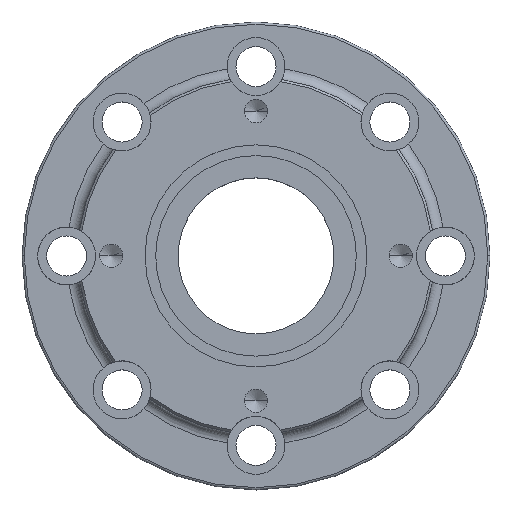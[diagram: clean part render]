
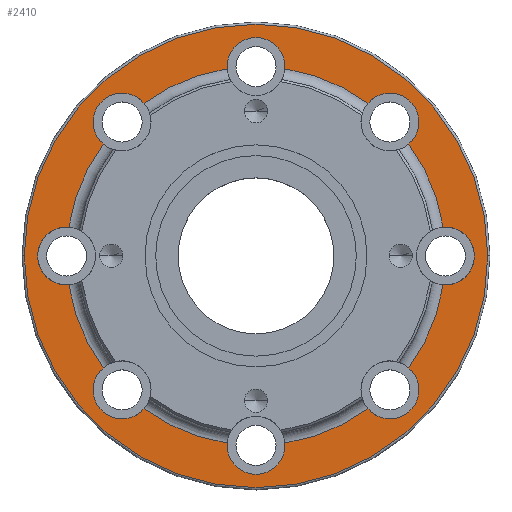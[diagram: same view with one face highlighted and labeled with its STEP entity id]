
A CAD part, top view. The second image highlights one B-rep face of the part: STEP entity #2410.
In plain terms, the highlighted planar face has unit normal (0, 0, 1).
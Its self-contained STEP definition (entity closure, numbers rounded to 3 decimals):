
#52=CARTESIAN_POINT('',(84.006,-12.962,20.));
#357=CARTESIAN_POINT('',(0.,0.,20.));
#358=DIRECTION('',(0.,0.,1.));
#359=DIRECTION('',(-1.,0.,0.));
#360=AXIS2_PLACEMENT_3D('',#357,#358,#359);
#362=CARTESIAN_POINT('',(0.,0.,20.));
#363=DIRECTION('',(0.,0.,1.));
#364=DIRECTION('',(1.,0.,0.));
#365=AXIS2_PLACEMENT_3D('',#362,#363,#364);
#367=CARTESIAN_POINT('',(60.104,60.104,20.));
#368=DIRECTION('',(0.,0.,-1.));
#369=DIRECTION('',(-0.759,0.651,0.));
#370=AXIS2_PLACEMENT_3D('',#367,#368,#369);
#372=CARTESIAN_POINT('',(0.,0.,20.));
#373=DIRECTION('',(0.,0.,-1.));
#374=DIRECTION('',(0.152,0.988,0.));
#375=AXIS2_PLACEMENT_3D('',#372,#373,#374);
#377=CARTESIAN_POINT('',(0.,85.,20.));
#378=DIRECTION('',(0.,0.,-1.));
#379=DIRECTION('',(1.,0.,0.));
#380=AXIS2_PLACEMENT_3D('',#377,#378,#379);
#382=CARTESIAN_POINT('',(0.,85.,20.));
#383=DIRECTION('',(0.,0.,-1.));
#384=DIRECTION('',(-1.,0.,0.));
#385=AXIS2_PLACEMENT_3D('',#382,#383,#384);
#387=CARTESIAN_POINT('',(0.,85.,20.));
#388=DIRECTION('',(0.,0.,-1.));
#389=DIRECTION('',(-0.997,-0.076,0.));
#390=AXIS2_PLACEMENT_3D('',#387,#388,#389);
#392=CARTESIAN_POINT('',(0.,0.,20.));
#393=DIRECTION('',(0.,0.,-1.));
#394=DIRECTION('',(-0.591,0.807,0.));
#395=AXIS2_PLACEMENT_3D('',#392,#393,#394);
#397=CARTESIAN_POINT('',(-60.104,60.104,20.));
#398=DIRECTION('',(0.,0.,-1.));
#399=DIRECTION('',(-1.,0.,0.));
#400=AXIS2_PLACEMENT_3D('',#397,#398,#399);
#402=CARTESIAN_POINT('',(-60.104,60.104,20.));
#403=DIRECTION('',(0.,0.,-1.));
#404=DIRECTION('',(-0.651,-0.759,0.));
#405=AXIS2_PLACEMENT_3D('',#402,#403,#404);
#407=CARTESIAN_POINT('',(0.,0.,20.));
#408=DIRECTION('',(0.,0.,-1.));
#409=DIRECTION('',(-0.988,0.152,0.));
#410=AXIS2_PLACEMENT_3D('',#407,#408,#409);
#412=CARTESIAN_POINT('',(-85.,0.,20.));
#413=DIRECTION('',(0.,0.,-1.));
#414=DIRECTION('',(-1.,0.,0.));
#415=AXIS2_PLACEMENT_3D('',#412,#413,#414);
#417=CARTESIAN_POINT('',(-85.,0.,20.));
#418=DIRECTION('',(0.,0.,-1.));
#419=DIRECTION('',(0.076,-0.997,0.));
#420=AXIS2_PLACEMENT_3D('',#417,#418,#419);
#422=CARTESIAN_POINT('',(0.,0.,20.));
#423=DIRECTION('',(0.,0.,-1.));
#424=DIRECTION('',(-0.807,-0.591,0.));
#425=AXIS2_PLACEMENT_3D('',#422,#423,#424);
#427=CARTESIAN_POINT('',(-60.104,-60.104,20.));
#428=DIRECTION('',(0.,0.,-1.));
#429=DIRECTION('',(-1.,0.,0.));
#430=AXIS2_PLACEMENT_3D('',#427,#428,#429);
#432=CARTESIAN_POINT('',(-60.104,-60.104,20.));
#433=DIRECTION('',(0.,0.,-1.));
#434=DIRECTION('',(0.759,-0.651,0.));
#435=AXIS2_PLACEMENT_3D('',#432,#433,#434);
#437=CARTESIAN_POINT('',(0.,0.,20.));
#438=DIRECTION('',(0.,0.,-1.));
#439=DIRECTION('',(-0.152,-0.988,0.));
#440=AXIS2_PLACEMENT_3D('',#437,#438,#439);
#442=CARTESIAN_POINT('',(0.,-85.,20.));
#443=DIRECTION('',(0.,0.,-1.));
#444=DIRECTION('',(-1.,0.,0.));
#445=AXIS2_PLACEMENT_3D('',#442,#443,#444);
#447=CARTESIAN_POINT('',(0.,-85.,20.));
#448=DIRECTION('',(0.,0.,-1.));
#449=DIRECTION('',(1.,0.,0.));
#450=AXIS2_PLACEMENT_3D('',#447,#448,#449);
#452=CARTESIAN_POINT('',(0.,-85.,20.));
#453=DIRECTION('',(0.,0.,-1.));
#454=DIRECTION('',(0.997,0.076,0.));
#455=AXIS2_PLACEMENT_3D('',#452,#453,#454);
#457=CARTESIAN_POINT('',(0.,0.,20.));
#458=DIRECTION('',(0.,0.,-1.));
#459=DIRECTION('',(0.591,-0.807,0.));
#460=AXIS2_PLACEMENT_3D('',#457,#458,#459);
#462=CARTESIAN_POINT('',(60.104,-60.104,20.));
#463=DIRECTION('',(0.,0.,-1.));
#464=DIRECTION('',(1.,0.,0.));
#465=AXIS2_PLACEMENT_3D('',#462,#463,#464);
#467=CARTESIAN_POINT('',(60.104,-60.104,20.));
#468=DIRECTION('',(0.,0.,-1.));
#469=DIRECTION('',(0.651,0.759,0.));
#470=AXIS2_PLACEMENT_3D('',#467,#468,#469);
#472=CARTESIAN_POINT('',(0.,0.,20.));
#473=DIRECTION('',(0.,0.,-1.));
#474=DIRECTION('',(0.988,-0.152,0.));
#475=AXIS2_PLACEMENT_3D('',#472,#473,#474);
#477=CARTESIAN_POINT('',(85.,0.,20.));
#478=DIRECTION('',(0.,0.,-1.));
#479=DIRECTION('',(1.,0.,0.));
#480=AXIS2_PLACEMENT_3D('',#477,#478,#479);
#482=CARTESIAN_POINT('',(85.,0.,20.));
#483=DIRECTION('',(0.,0.,-1.));
#484=DIRECTION('',(-0.076,0.997,0.));
#485=AXIS2_PLACEMENT_3D('',#482,#483,#484);
#487=CARTESIAN_POINT('',(0.,0.,20.));
#488=DIRECTION('',(0.,0.,-1.));
#489=DIRECTION('',(0.807,0.591,0.));
#490=AXIS2_PLACEMENT_3D('',#487,#488,#489);
#492=CARTESIAN_POINT('',(60.104,60.104,20.));
#493=DIRECTION('',(0.,0.,-1.));
#494=DIRECTION('',(1.,0.,0.));
#495=AXIS2_PLACEMENT_3D('',#492,#493,#494);
#801=CARTESIAN_POINT('',(68.567,50.236,20.));
#867=CARTESIAN_POINT('',(84.006,12.962,20.));
#1804=CARTESIAN_POINT('',(98.,0.,20.));
#1806=VERTEX_POINT('',#1804);
#1819=VERTEX_POINT('',#801);
#1820=CARTESIAN_POINT('',(73.104,60.104,20.));
#1821=VERTEX_POINT('',#1820);
#1826=CARTESIAN_POINT('',(-73.104,-60.104,20.));
#1827=VERTEX_POINT('',#1826);
#1828=CARTESIAN_POINT('',(-50.236,-68.567,20.));
#1829=VERTEX_POINT('',#1828);
#1840=CARTESIAN_POINT('',(-98.,0.,20.));
#1841=VERTEX_POINT('',#1840);
#1842=CARTESIAN_POINT('',(-84.006,-12.962,20.));
#1843=VERTEX_POINT('',#1842);
#1854=CARTESIAN_POINT('',(-73.104,60.104,20.));
#1855=VERTEX_POINT('',#1854);
#1856=CARTESIAN_POINT('',(-68.567,50.236,20.));
#1857=VERTEX_POINT('',#1856);
#1862=CARTESIAN_POINT('',(68.567,-50.236,20.));
#1863=CARTESIAN_POINT('',(73.104,-60.104,20.));
#1864=VERTEX_POINT('',#1862);
#1865=VERTEX_POINT('',#1863);
#1866=CARTESIAN_POINT('',(50.236,-68.567,20.));
#1867=CARTESIAN_POINT('',(12.962,-84.006,20.));
#1868=VERTEX_POINT('',#1866);
#1869=VERTEX_POINT('',#1867);
#1870=CARTESIAN_POINT('',(13.,-85.,20.));
#1871=VERTEX_POINT('',#1870);
#1872=CARTESIAN_POINT('',(-13.,-85.,20.));
#1873=CARTESIAN_POINT('',(-12.962,-84.006,20.));
#1874=VERTEX_POINT('',#1872);
#1875=VERTEX_POINT('',#1873);
#1876=CARTESIAN_POINT('',(-68.567,-50.236,20.));
#1877=VERTEX_POINT('',#1876);
#1878=CARTESIAN_POINT('',(-84.006,12.962,20.));
#1879=VERTEX_POINT('',#1878);
#1880=CARTESIAN_POINT('',(-50.236,68.567,20.));
#1881=VERTEX_POINT('',#1880);
#1882=CARTESIAN_POINT('',(-12.962,84.006,20.));
#1883=VERTEX_POINT('',#1882);
#1884=CARTESIAN_POINT('',(-13.,85.,20.));
#1885=CARTESIAN_POINT('',(13.,85.,20.));
#1886=VERTEX_POINT('',#1884);
#1887=VERTEX_POINT('',#1885);
#1888=CARTESIAN_POINT('',(12.962,84.006,20.));
#1889=CARTESIAN_POINT('',(50.236,68.567,20.));
#1890=VERTEX_POINT('',#1888);
#1891=VERTEX_POINT('',#1889);
#1950=VERTEX_POINT('',#867);
#1981=VERTEX_POINT('',#52);
#1999=CARTESIAN_POINT('',(-104.,0.,20.));
#2001=VERTEX_POINT('',#1999);
#2002=CARTESIAN_POINT('',(104.,0.,20.));
#2003=VERTEX_POINT('',#2002);
#2350=CARTESIAN_POINT('',(0.,0.,20.));
#2351=DIRECTION('',(0.,0.,-1.));
#2352=DIRECTION('',(-1.,0.,0.));
#2353=AXIS2_PLACEMENT_3D('',#2350,#2351,#2352);
#2354=PLANE('',#2353);
#2356=ORIENTED_EDGE('',*,*,#2355,.F.);
#2358=ORIENTED_EDGE('',*,*,#2357,.F.);
#2359=EDGE_LOOP('',(#2356,#2358));
#2360=FACE_OUTER_BOUND('',#2359,.F.);
#2362=ORIENTED_EDGE('',*,*,#2361,.F.);
#2364=ORIENTED_EDGE('',*,*,#2363,.F.);
#2366=ORIENTED_EDGE('',*,*,#2365,.F.);
#2368=ORIENTED_EDGE('',*,*,#2367,.F.);
#2370=ORIENTED_EDGE('',*,*,#2369,.F.);
#2372=ORIENTED_EDGE('',*,*,#2371,.F.);
#2374=ORIENTED_EDGE('',*,*,#2373,.F.);
#2376=ORIENTED_EDGE('',*,*,#2375,.F.);
#2378=ORIENTED_EDGE('',*,*,#2377,.F.);
#2380=ORIENTED_EDGE('',*,*,#2379,.F.);
#2382=ORIENTED_EDGE('',*,*,#2381,.F.);
#2384=ORIENTED_EDGE('',*,*,#2383,.F.);
#2385=ORIENTED_EDGE('',*,*,#2336,.F.);
#2386=ORIENTED_EDGE('',*,*,#2306,.F.);
#2388=ORIENTED_EDGE('',*,*,#2387,.F.);
#2390=ORIENTED_EDGE('',*,*,#2389,.F.);
#2392=ORIENTED_EDGE('',*,*,#2391,.F.);
#2394=ORIENTED_EDGE('',*,*,#2393,.F.);
#2396=ORIENTED_EDGE('',*,*,#2395,.F.);
#2398=ORIENTED_EDGE('',*,*,#2397,.F.);
#2400=ORIENTED_EDGE('',*,*,#2399,.F.);
#2401=ORIENTED_EDGE('',*,*,#2140,.F.);
#2402=ORIENTED_EDGE('',*,*,#2158,.F.);
#2403=ORIENTED_EDGE('',*,*,#2203,.F.);
#2405=ORIENTED_EDGE('',*,*,#2404,.F.);
#2407=ORIENTED_EDGE('',*,*,#2406,.F.);
#2408=EDGE_LOOP('',(#2362,#2364,#2366,#2368,#2370,#2372,#2374,#2376,#2378,#2380,
#2382,#2384,#2385,#2386,#2388,#2390,#2392,#2394,#2396,#2398,#2400,#2401,#2402,
#2403,#2405,#2407));
#2409=FACE_BOUND('',#2408,.F.);
#361=CIRCLE('',#360,104.);
#366=CIRCLE('',#365,104.);
#371=CIRCLE('',#370,13.);
#376=CIRCLE('',#375,85.);
#381=CIRCLE('',#380,13.);
#386=CIRCLE('',#385,13.);
#391=CIRCLE('',#390,13.);
#396=CIRCLE('',#395,85.);
#401=CIRCLE('',#400,13.);
#406=CIRCLE('',#405,13.);
#411=CIRCLE('',#410,85.);
#416=CIRCLE('',#415,13.);
#421=CIRCLE('',#420,13.);
#426=CIRCLE('',#425,85.);
#431=CIRCLE('',#430,13.);
#436=CIRCLE('',#435,13.);
#441=CIRCLE('',#440,85.);
#446=CIRCLE('',#445,13.);
#451=CIRCLE('',#450,13.);
#456=CIRCLE('',#455,13.);
#461=CIRCLE('',#460,85.);
#466=CIRCLE('',#465,13.);
#471=CIRCLE('',#470,13.);
#476=CIRCLE('',#475,85.);
#481=CIRCLE('',#480,13.);
#486=CIRCLE('',#485,13.);
#491=CIRCLE('',#490,85.);
#496=CIRCLE('',#495,13.);
#2140=EDGE_CURVE('',#1981,#1864,#476,.T.);
#2158=EDGE_CURVE('',#1806,#1981,#481,.T.);
#2203=EDGE_CURVE('',#1950,#1806,#486,.T.);
#2306=EDGE_CURVE('',#1829,#1827,#436,.T.);
#2336=EDGE_CURVE('',#1827,#1877,#431,.T.);
#2355=EDGE_CURVE('',#2001,#2003,#361,.T.);
#2357=EDGE_CURVE('',#2003,#2001,#366,.T.);
#2361=EDGE_CURVE('',#1891,#1821,#371,.T.);
#2363=EDGE_CURVE('',#1890,#1891,#376,.T.);
#2365=EDGE_CURVE('',#1887,#1890,#381,.T.);
#2367=EDGE_CURVE('',#1886,#1887,#386,.T.);
#2369=EDGE_CURVE('',#1883,#1886,#391,.T.);
#2371=EDGE_CURVE('',#1881,#1883,#396,.T.);
#2373=EDGE_CURVE('',#1855,#1881,#401,.T.);
#2375=EDGE_CURVE('',#1857,#1855,#406,.T.);
#2377=EDGE_CURVE('',#1879,#1857,#411,.T.);
#2379=EDGE_CURVE('',#1841,#1879,#416,.T.);
#2381=EDGE_CURVE('',#1843,#1841,#421,.T.);
#2383=EDGE_CURVE('',#1877,#1843,#426,.T.);
#2387=EDGE_CURVE('',#1875,#1829,#441,.T.);
#2389=EDGE_CURVE('',#1874,#1875,#446,.T.);
#2391=EDGE_CURVE('',#1871,#1874,#451,.T.);
#2393=EDGE_CURVE('',#1869,#1871,#456,.T.);
#2395=EDGE_CURVE('',#1868,#1869,#461,.T.);
#2397=EDGE_CURVE('',#1865,#1868,#466,.T.);
#2399=EDGE_CURVE('',#1864,#1865,#471,.T.);
#2404=EDGE_CURVE('',#1819,#1950,#491,.T.);
#2406=EDGE_CURVE('',#1821,#1819,#496,.T.);
#2410=ADVANCED_FACE('',(#2360,#2409),#2354,.F.);
